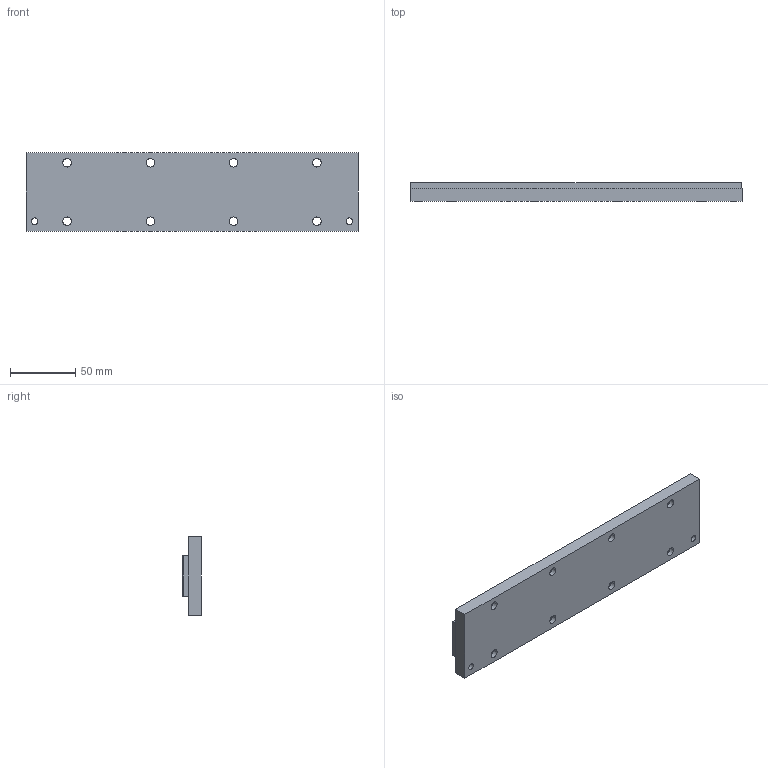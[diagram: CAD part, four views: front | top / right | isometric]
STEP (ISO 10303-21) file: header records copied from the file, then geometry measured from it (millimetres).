
FILE_DESCRIPTION((''),'2;1');
FILE_NAME('MC030-0256-WC','2007-01-14T',('saurabh.singhal'),(''),'PRO/ENGINEER BY PARAMETRIC TECHNOLOGY CORPORATION, 2005450','PRO/ENGINEER BY PARAMETRIC TECHNOLOGY CORPORATION, 2005450','');
FILE_SCHEMA(('CONFIG_CONTROL_DESIGN'));
Length unit declared in the file: millimetre
Products named in the file (1): MC030-0256-WC
Bounding box: 255.3 x 14.4 x 60 mm (x, y, z)
Volume: 177518.5 mm3; surface area: 65116.4 mm2
Topology: 1 solids, 1 shells, 138 faces, 336 edges, 224 vertices
Faces by surface type: plane 102, cylinder 36
Entity records: 4114 total; most frequent: CARTESIAN_POINT 698, DIRECTION 684, ORIENTED_EDGE 672, EDGE_CURVE 336, VECTOR 264, LINE 264, VERTEX_POINT 224, AXIS2_PLACEMENT_3D 210
